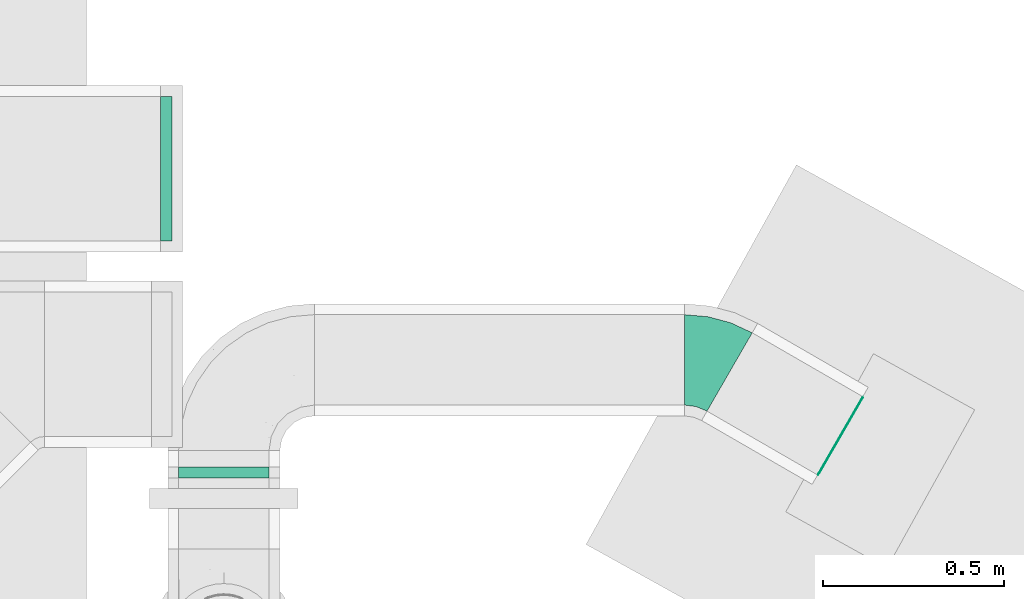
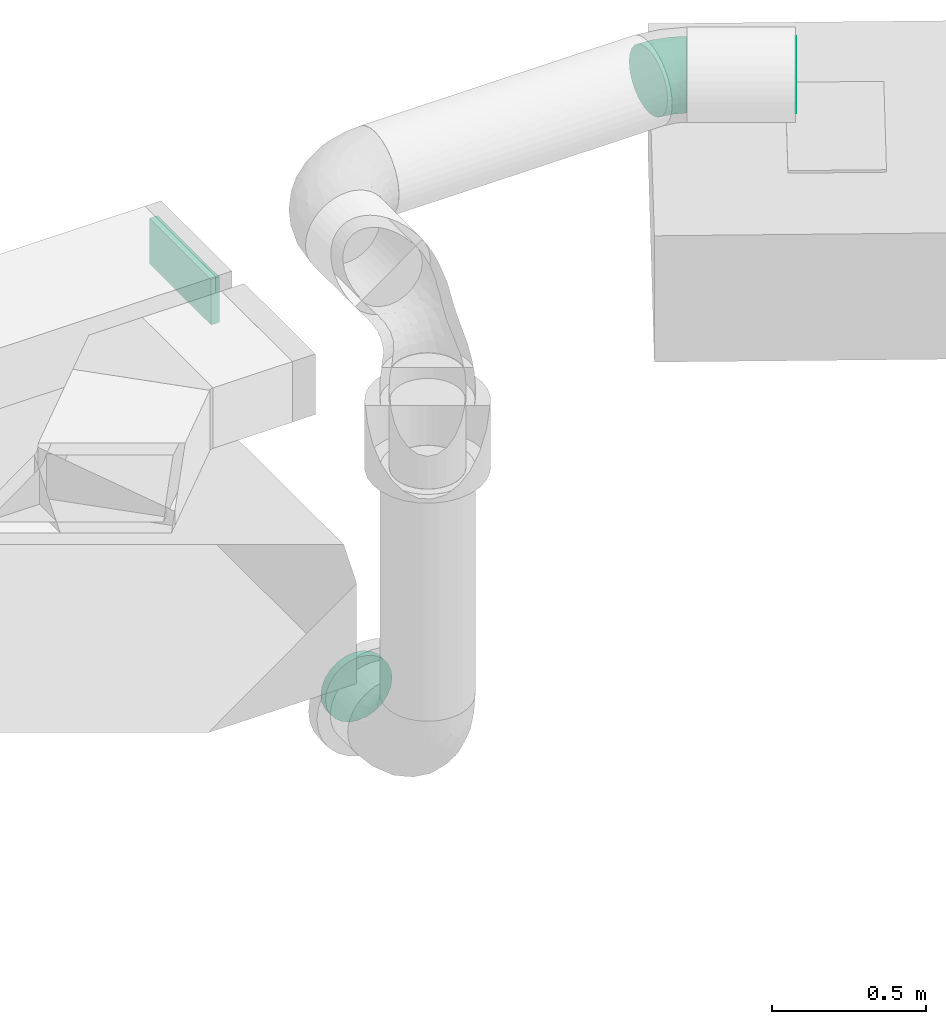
# One storey, part 8 of 9: 3 flow fittings, 1 flow terminal.
"""IFC2X3 building model written with IfcOpenShell, lengths in millimetres."""

import ifcopenshell
import ifcopenshell.guid

model = None  # the IFC model being written
_history = None  # IfcOwnerHistory: only IFC2X3 demands one
_inside = {}  # id of a spatial element -> (the spatial element, [elements in it])
_under = {}  # id of a project, library or spatial element -> (it, [spatial elements below it])
_declared = {}  # id of a project -> (the project, [libraries it declares])
_typed = {}  # id of a type object -> (the type object, [elements of that type])
_made_of = {}  # id of a material, layer set ... -> (it, [elements and type objects made of it])


def new_model(schema):
    """Start an empty IFC model of exactly this schema.

    Asked for "IFC4X3", IfcOpenShell would pick the latest addendum, in which some entities
    have other attributes; the version numbers below select the first issue.
    IFC2X3 requires an IfcOwnerHistory on every rooted entity: one is made here for all.
    """
    global model, _history
    if schema == "IFC4X3":
        model = ifcopenshell.file(schema_version=(4, 3, 0, 0))
    else:
        model = ifcopenshell.file(schema=schema)
    _inside.clear()
    _under.clear()
    _declared.clear()
    _typed.clear()
    _made_of.clear()
    _history = None
    if model.schema == "IFC2X3":
        org = make("IfcOrganization", Name="unknown")
        user = make(
            "IfcPersonAndOrganization",
            ThePerson=make("IfcPerson", FamilyName="unknown"),
            TheOrganization=org,
        )
        app = make(
            "IfcApplication",
            ApplicationDeveloper=org,
            Version="unknown",
            ApplicationFullName="unknown",
            ApplicationIdentifier="unknown",
        )
        _history = make(
            "IfcOwnerHistory",
            OwningUser=user,
            OwningApplication=app,
            ChangeAction="ADDED",
            CreationDate=0,
        )
    return model


def make(cls, **values):
    """One entity of the class cls with the attributes given. An attribute that is None is left unset."""
    return model.create_entity(
        cls, **{name: value for name, value in values.items() if value is not None}
    )


def entity(cls, *values):
    """Any entity or typed value of the class cls, its attributes in the order of the schema. None: left unset."""
    e = model.create_entity(cls)
    for i, value in enumerate(values):
        if value is not None:
            e[i] = value
    return e


def rooted(cls, **values):
    """An entity with a GlobalId (a new one), such as an element, a storey or a relation."""
    return make(cls, GlobalId=ifcopenshell.guid.new(), OwnerHistory=_history, **values)


def si_unit(unit_type, name, prefix=None):
    """IfcSIUnit, for example si_unit("LENGTHUNIT", "METRE", prefix="MILLI")."""
    return make("IfcSIUnit", UnitType=unit_type, Prefix=prefix, Name=name)


def converted_unit(unit_type, name, factor, base, dimensions=None, offset=None):
    """IfcConversionBasedUnit, such as the inch: factor (a typed value) times the base unit."""
    return make(
        "IfcConversionBasedUnit"
        if offset is None
        else "IfcConversionBasedUnitWithOffset",
        ConversionOffset=offset,
        Dimensions=None
        if dimensions is None
        else entity("IfcDimensionalExponents", *dimensions),
        UnitType=unit_type,
        Name=name,
        ConversionFactor=make(
            "IfcMeasureWithUnit", ValueComponent=factor, UnitComponent=base
        ),
    )


def derived_unit(unit_type, elements):
    """IfcDerivedUnit: a product of units, each with its exponent."""
    return make(
        "IfcDerivedUnit",
        Elements=[
            make("IfcDerivedUnitElement", Unit=unit, Exponent=power)
            for unit, power in elements
        ],
        UnitType=unit_type,
    )


def assignment(units):
    """IfcUnitAssignment: the units of a project."""
    return None if units is None else make("IfcUnitAssignment", Units=units)


def point(xyz):
    """IfcCartesianPoint."""
    return None if xyz is None else make("IfcCartesianPoint", Coordinates=xyz)


def direction(xyz):
    """IfcDirection."""
    return None if xyz is None else make("IfcDirection", DirectionRatios=xyz)


def frame(location, z_axis=None, x_axis=None):
    """IfcAxis2Placement3D, a coordinate frame: its origin and axes. An axis left out is left unset."""
    return make(
        "IfcAxis2Placement3D",
        Location=point(location),
        Axis=direction(z_axis),
        RefDirection=direction(x_axis),
    )


def origin_with_axes():
    """The frame at (0, 0, 0) with the z axis (0, 0, 1) and the x axis (1, 0, 0) written out."""
    return frame((0.0, 0.0, 0.0), z_axis=(0.0, 0.0, 1.0), x_axis=(1.0, 0.0, 0.0))


def place(relative_to, where):
    """IfcLocalPlacement: puts the frame where relative to a parent placement (None: the world)."""
    return make(
        "IfcLocalPlacement", PlacementRelTo=relative_to, RelativePlacement=where
    )


def context(
    kind, dimensions, precision=None, world=None, true_north=None, identifier=None
):
    """IfcGeometricRepresentationContext, for example the 3D "Model" context."""
    return make(
        "IfcGeometricRepresentationContext",
        ContextIdentifier=identifier,
        ContextType=kind,
        CoordinateSpaceDimension=dimensions,
        Precision=precision,
        WorldCoordinateSystem=world,
        TrueNorth=true_north,
    )


def subcontext(parent, identifier, kind, view, scale=None):
    """IfcGeometricRepresentationSubContext, for example "Body" below "Model"."""
    return make(
        "IfcGeometricRepresentationSubContext",
        ContextIdentifier=identifier,
        ContextType=kind,
        ParentContext=parent,
        TargetScale=scale,
        TargetView=view,
    )


def project(units=None, contexts=None):
    """IfcProject with its units and contexts."""
    return rooted(
        "IfcProject",
        Name="project",
        RepresentationContexts=contexts,
        UnitsInContext=assignment(units),
    )


def spatial(cls, under=None, at=None, **own):
    """A site, building, storey or space (cls), placed at a placement, below another one or the project."""
    s = rooted(cls, ObjectPlacement=at, **own)
    if under is not None:
        _under.setdefault(under.id(), (under, []))[1].append(s)
    return s


def faces_of(points, faces, orient=None, outer=None):
    """IfcFace entities. A face is a list of loops; a loop is a list of indices into points, from 0.

    orient and outer hold one flag for each loop. By default every Orientation is true, the
    first loop of a face is its IfcFaceOuterBound and the others are IfcFaceBound.
    """
    made = []
    for i, loops in enumerate(faces):
        bounds = []
        for j, loop in enumerate(loops):
            is_outer = j == 0 if outer is None else outer[i][j]
            bounds.append(
                make(
                    "IfcFaceOuterBound" if is_outer else "IfcFaceBound",
                    Bound=make("IfcPolyLoop", Polygon=[points[k] for k in loop]),
                    Orientation=True if orient is None else orient[i][j],
                )
            )
        made.append(make("IfcFace", Bounds=bounds))
    return made


def open_shell(faces, orient=None, outer=None):
    """The faces of one IfcOpenShell. surface_model builds it on its shared points."""
    return ("IfcOpenShell", faces, orient, outer)


def surface_model(cls, points, shells):
    """IfcFaceBasedSurfaceModel or IfcShellBasedSurfaceModel (cls): surfaces that need not close."""
    shared = [point(p) for p in points]
    made = [make(c, CfsFaces=faces_of(shared, fs, o, b)) for c, fs, o, b in shells]
    if cls == "IfcFaceBasedSurfaceModel":
        return make(cls, FbsmFaces=made)
    return make(cls, SbsmBoundary=made)


def shape(context_of_items, identifier, shape_type, items):
    """IfcShapeRepresentation: the items that make up one representation, for example the "Body"."""
    return make(
        "IfcShapeRepresentation",
        ContextOfItems=context_of_items,
        RepresentationIdentifier=identifier,
        RepresentationType=shape_type,
        Items=items,
    )


def source(mapping_origin, context_of_items, identifier, shape_type, items):
    """IfcRepresentationMap: a shape defined once, which mapped items show again and again."""
    return make(
        "IfcRepresentationMap",
        MappingOrigin=mapping_origin,
        MappedRepresentation=shape(context_of_items, identifier, shape_type, items),
    )


def transform(
    local_origin,
    x_axis=None,
    y_axis=None,
    z_axis=None,
    scale=None,
    scale2=None,
    scale3=None,
    uniform=True,
):
    """IfcCartesianTransformationOperator3D, or its non-uniform kind. x_axis, y_axis, z_axis: its Axis1, 2, 3."""
    if uniform:
        return make(
            "IfcCartesianTransformationOperator3D",
            Axis1=direction(x_axis),
            Axis2=direction(y_axis),
            LocalOrigin=point(local_origin),
            Scale=scale,
            Axis3=direction(z_axis),
        )
    return make(
        "IfcCartesianTransformationOperator3DnonUniform",
        Axis1=direction(x_axis),
        Axis2=direction(y_axis),
        LocalOrigin=point(local_origin),
        Scale=scale,
        Axis3=direction(z_axis),
        Scale2=scale2,
        Scale3=scale3,
    )


def mapped(mapping_source, mapping_target):
    """IfcMappedItem: shows the shape of a source again, moved by a transform."""
    return make(
        "IfcMappedItem", MappingSource=mapping_source, MappingTarget=mapping_target
    )


def made_of(thing, what):
    """Note that an element or type object is made of a material, layer set ...; save() writes the relation."""
    if what is not None:
        _made_of.setdefault(what.id(), (what, []))[1].append(thing)
    return thing


def type_object(cls, material=None, **own):
    """A type object (cls), such as IfcWallType, which elements share."""
    return made_of(rooted(cls, **own), material)


def element(
    cls,
    number,
    at=None,
    inside=None,
    cuts=None,
    type_object=None,
    material=None,
    context=None,
    identifier="Body",
    shape_type=None,
    held_by="IfcProductDefinitionShape",
    body=None,
    shapes=None,
    **own,
):
    """One element of the class cls, such as IfcWall. Its Tag is "e" and its number.

    at: its placement. inside: the storey or other place that contains it. cuts: it is an
    opening in that element (IfcRelVoidsElement). A single representation is given by context,
    identifier, shape_type and body (its items); several are given by shapes. held_by: the class
    of the entity that holds the representations. save() writes the other relations.
    """
    e = rooted(cls, Tag="e%d" % number, ObjectPlacement=at, **own)
    if body is not None:
        shapes = [shape(context, identifier, shape_type, body)]
    if shapes is not None:
        e.Representation = make(held_by, Representations=shapes)
    if inside is not None:
        _inside.setdefault(inside.id(), (inside, []))[1].append(e)
    if cuts is not None:
        rooted(
            "IfcRelVoidsElement", RelatingBuildingElement=cuts, RelatedOpeningElement=e
        )
    if type_object is not None:
        _typed.setdefault(type_object.id(), (type_object, []))[1].append(e)
    return made_of(e, material)


def aggregate(whole, parts):
    """IfcRelAggregates: a whole, such as a stair, and the parts it consists of."""
    return rooted("IfcRelAggregates", RelatingObject=whole, RelatedObjects=parts)


def save(model, path):
    """Write the relations noted so far, then the file.

    IfcRelAggregates (storeys below a building ...), IfcRelContainedInSpatialStructure (elements
    in a storey), IfcRelDefinesByType, IfcRelAssociatesMaterial and IfcRelDeclares: one each for
    every whole, place, type object, material and project.
    """
    for whole, parts in _under.values():
        aggregate(whole, parts)
    for where, things in _inside.values():
        rooted(
            "IfcRelContainedInSpatialStructure",
            RelatedElements=things,
            RelatingStructure=where,
        )
    for kind, things in _typed.values():
        rooted("IfcRelDefinesByType", RelatedObjects=things, RelatingType=kind)
    for what, things in _made_of.values():
        rooted("IfcRelAssociatesMaterial", RelatedObjects=things, RelatingMaterial=what)
    for by, libraries in _declared.values():
        rooted("IfcRelDeclares", RelatingContext=by, RelatedDefinitions=libraries)
    model.write(path)


model = new_model("IFC2X3")

# Units and contexts
model_context = context("Model", 3, precision=0.01, world=frame((0.0, 4.29681676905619e-09, 0.0)), true_north=direction((4.01073788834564e-13, 1.0)))
plan_context = context("Plan", 3, precision=0.01, world=frame((0.0, 4.29681676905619e-09, 0.0)), true_north=direction((4.01073788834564e-13, 1.0)))
body_context = subcontext(model_context, "Body", "Model", "MODEL_VIEW")
ifc_project = project(units=[converted_unit("PLANEANGLEUNIT", "DEGREE", entity("IfcPositiveLengthMeasure", 0.0174532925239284), si_unit("PLANEANGLEUNIT", "RADIAN"), dimensions=[0, 0, 0, 0, 0, 0, 0]), si_unit("AREAUNIT", "SQUARE_METRE"), si_unit("LENGTHUNIT", "METRE", prefix="MILLI"), si_unit("MASSUNIT", "GRAM", prefix="KILO"), si_unit("POWERUNIT", "WATT"), si_unit("PRESSUREUNIT", "PASCAL"), si_unit("FORCEUNIT", "NEWTON", prefix="KILO"), si_unit("ELECTRICVOLTAGEUNIT", "VOLT"), si_unit("ELECTRICCURRENTUNIT", "AMPERE"), si_unit("THERMODYNAMICTEMPERATUREUNIT", "DEGREE_CELSIUS"), si_unit("TIMEUNIT", "SECOND"), si_unit("VOLUMEUNIT", "CUBIC_METRE"), derived_unit("LINEARVELOCITYUNIT", [(si_unit("LENGTHUNIT", "METRE"), 1), (si_unit("TIMEUNIT", "SECOND"), -1)]), derived_unit("VOLUMETRICFLOWRATEUNIT", [(si_unit("VOLUMEUNIT", "CUBIC_METRE"), 1), (si_unit("TIMEUNIT", "SECOND"), -1)]), derived_unit("THERMALTRANSMITTANCEUNIT", [(si_unit("POWERUNIT", "WATT"), 1), (si_unit("THERMODYNAMICTEMPERATUREUNIT", "KELVIN"), -1), (si_unit("AREAUNIT", "SQUARE_METRE"), -1)]), derived_unit("SOUNDPRESSUREUNIT", [(si_unit("PRESSUREUNIT", "PASCAL"), 1)])], contexts=[model_context, plan_context])

# Site, building, storey
site_placement = place(None, frame((0.0, -4.29681676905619e-09, 0.0), z_axis=(0.0, 0.0, 1.0), x_axis=(1.0, 0.0, 0.0)))
site = spatial("IfcSite", under=ifc_project, at=site_placement, CompositionType="ELEMENT")
building_placement = place(site_placement, frame((0.0, 4.29681676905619e-09, 0.0), z_axis=(0.0, 0.0, 1.0), x_axis=(1.0, 0.0, 0.0)))
building = spatial("IfcBuilding", under=site, at=building_placement, Name="mc-building", CompositionType="ELEMENT")
storey_placement = place(building_placement, frame((0.0, 0.0, 210200.0), z_axis=(0.0, 0.0, 1.0), x_axis=(1.0, 0.0, 0.0)))
storey = spatial("IfcBuildingStorey", under=building, at=storey_placement, Name="Nivå F -0,7m", CompositionType="ELEMENT", Elevation=210200.0)

# Flow fittings
duct_fitting_type_1 = type_object("IfcDuctFittingType", Name="magicirc_elbow_full_radius_001", PredefinedType="BEND")
shared_shape_1 = source(origin_with_axes(), body_context, "Body", "SurfaceModel", [
    surface_model("IfcShellBasedSurfaceModel", [(-66.9873, 32.35238, -120.74073), (-66.9873, 0.0, -125.0), (-66.9873, 88.38835, -88.38835), (-66.9873, 62.5, -108.25318), (-66.9873, 120.74073, -32.35238), (-66.9873, 108.25318, -62.5), (-66.9873, -32.35238, -120.74073), (-66.9873, -62.5, -108.25318), (-66.9873, -88.38835, -88.38835), (-66.9873, -108.25318, -62.5), (-66.9873, -120.74073, -32.35238), (-66.9873, -125.0, 0.0), (-66.9873, 125.0, 0.0), (-66.9873, -62.5, 108.25318), (-66.9873, 120.74073, 32.35238), (-66.9873, 108.25318, 62.5), (-66.9873, 32.35238, 120.74073), (-66.9873, 62.5, 108.25318), (-66.9873, 88.38835, 88.38835), (-66.9873, -108.25318, 62.5), (-66.9873, -88.38835, 88.38835), (-66.9873, -120.74073, 32.35238), (-66.9873, -32.35238, 120.74073), (-66.9873, 0.0, 125.0), (102.20688, -43.0529, -88.38835), (58.0127, 33.49365, -125.0), (41.83651, 61.51163, -120.74073), (26.7627, 87.62023, -108.25318), (13.81853, 110.0402, -88.38835), (3.88611, 127.24365, -62.5), (-2.35766, 138.05819, -32.35238), (74.18889, 5.47567, -120.74073), (89.2627, -20.63294, -108.25318), (112.13929, -60.25635, -62.5), (120.5127, -74.75953, 0.0), (118.38306, -71.07089, -32.35238), (-4.4873, 141.74683, 0.0), (41.83651, 61.51163, 120.74073), (-2.35766, 138.05819, 32.35238), (3.88611, 127.24365, 62.5), (13.81853, 110.0402, 88.38835), (26.7627, 87.62023, 108.25318), (89.2627, -20.63294, 108.25318), (112.13929, -60.25635, 62.5), (102.20688, -43.0529, 88.38835), (118.38306, -71.07089, 32.35238), (58.0127, 33.49365, 125.0), (74.18889, 5.47567, 120.74073), (-10.52673, -112.57243, 44.15342), (-1.86923, -119.30291, 0.0), (-20.91676, -120.23002, 21.79378), (-35.89571, -122.27984, 0.0), (24.34933, -90.87293, 70.97238), (-24.69912, -98.35294, 73.77062), (70.56654, -72.82659, 73.77062), (-31.85796, -48.03233, 114.52264), (-13.67198, -74.62338, 96.89352), (11.40538, -42.56547, 113.26105), (25.12039, -111.15876, 23.77057), (27.61966, -103.07798, 47.7187), (-19.81421, -15.54023, 123.43822), (-5.29627, 19.76594, 124.45647), (-40.67459, 15.80942, 124.17521), (51.60597, -25.66825, 114.52264), (-26.6654, 48.83353, 116.68363), (-21.17057, 79.00964, 101.4852), (49.15197, -57.78976, 96.89352), (-24.78516, 103.10992, 78.63486), (-31.85959, 118.90162, 50.65349), (-33.4328, 126.77673, 25.88802), (65.40263, -92.22723, 44.15342), (78.22946, -93.66387, 21.79379), (92.22651, -87.94959, 0.0), (28.3766, -1.98516, 123.48117), (27.32052, 34.02865, 124.17521), (-34.63492, 129.25927, 0.0), (8.66503, 60.17207, 116.36517), (29.70051, -110.84382, 0.0), (61.27026, -102.38473, 0.0), (65.40263, -92.22723, -44.15342), (24.92973, -3.55113, -123.43822), (-40.67459, 15.80941, -124.17521), (-23.58227, -15.9075, -123.48117), (-30.09038, 101.68839, -78.63485), (-21.17058, 79.00964, -101.4852), (-1.32386, 55.62377, -116.68363), (49.15197, -57.78975, -96.89352), (-31.85959, 118.90162, -50.65348), (-34.43471, 126.50827, -25.88802), (25.12039, -111.15876, -23.77056), (-20.91676, -120.23002, -21.79378), (-37.59018, 47.77802, -116.36517), (-10.52673, -112.57244, -44.15342), (27.32052, 34.02865, -124.17521), (-24.69912, -98.35294, -73.77062), (-13.67198, -74.62338, -96.89352), (24.34933, -90.87294, -70.97237), (-31.85795, -48.03234, -114.52264), (11.40538, -42.56548, -113.26105), (-5.29627, 19.76594, -124.45647), (70.56654, -72.82659, -73.77062), (78.22945, -93.66387, -21.79378), (51.60597, -25.66825, -114.52264), (27.61966, -103.07798, -47.7187)], [open_shell([[[0, 1, 2]], [[3, 0, 2]], [[4, 5, 2]], [[6, 2, 1]], [[4, 2, 6]], [[7, 8, 6]], [[8, 4, 6]], [[9, 10, 8]], [[11, 8, 10]], [[8, 11, 4]], [[11, 12, 4]], [[12, 13, 14]], [[15, 14, 16]], [[16, 17, 18]], [[15, 16, 18]], [[16, 14, 13]], [[19, 20, 21]], [[21, 20, 11]], [[22, 23, 13]], [[20, 13, 11]], [[13, 23, 16]], [[13, 12, 11]], [[24, 25, 26]], [[27, 24, 26]], [[28, 29, 30]], [[24, 27, 28]], [[24, 28, 30]], [[31, 24, 32]], [[31, 25, 24]], [[33, 34, 35]], [[34, 33, 24]], [[30, 34, 24]], [[30, 36, 34]], [[37, 36, 38]], [[37, 38, 39]], [[40, 41, 37]], [[40, 37, 39]], [[37, 42, 34]], [[43, 42, 44]], [[45, 34, 43]], [[42, 46, 47]], [[43, 34, 42]], [[46, 42, 37]], [[36, 37, 34]], [[21, 48, 19]], [[49, 50, 51]], [[52, 53, 48]], [[43, 44, 54]], [[55, 56, 57]], [[53, 20, 19]], [[58, 59, 48]], [[22, 13, 55]], [[60, 61, 62]], [[42, 47, 63]], [[21, 51, 50]], [[48, 50, 58]], [[62, 16, 23]], [[17, 64, 65]], [[41, 40, 65]], [[17, 16, 64]], [[66, 56, 52]], [[65, 18, 17]], [[54, 66, 52]], [[67, 18, 65]], [[14, 15, 68]], [[56, 66, 57]], [[69, 12, 14]], [[53, 56, 20]], [[58, 70, 59]], [[45, 71, 72]], [[73, 61, 60]], [[44, 42, 66]], [[67, 68, 15]], [[73, 47, 46]], [[46, 37, 74]], [[71, 45, 70]], [[48, 53, 19]], [[66, 42, 63]], [[56, 53, 52]], [[43, 54, 70]], [[13, 20, 56]], [[39, 38, 68]], [[68, 67, 39]], [[14, 68, 69]], [[23, 22, 60]], [[75, 69, 36]], [[57, 63, 73]], [[38, 69, 68]], [[73, 46, 74]], [[40, 39, 67]], [[62, 64, 16]], [[67, 65, 40]], [[61, 74, 76]], [[37, 41, 76]], [[76, 65, 64]], [[18, 67, 15]], [[57, 73, 60]], [[70, 45, 43]], [[66, 54, 44]], [[55, 60, 22]], [[70, 54, 52]], [[56, 55, 13]], [[60, 55, 57]], [[73, 63, 47]], [[66, 63, 57]], [[65, 76, 41]], [[61, 76, 64]], [[36, 69, 38]], [[69, 75, 12]], [[21, 11, 51]], [[58, 50, 49]], [[21, 50, 48]], [[58, 49, 77]], [[58, 78, 71]], [[70, 52, 59]], [[52, 48, 59]], [[72, 71, 78]], [[72, 34, 45]], [[58, 71, 70]], [[60, 62, 23]], [[64, 62, 61]], [[76, 74, 37]], [[73, 74, 61]], [[78, 58, 77]], [[33, 35, 79]], [[25, 31, 80]], [[81, 1, 0]], [[1, 82, 6]], [[2, 83, 84]], [[27, 26, 85]], [[2, 84, 3]], [[32, 24, 86]], [[87, 4, 88]], [[89, 49, 90]], [[10, 90, 51]], [[0, 3, 91]], [[90, 10, 92]], [[30, 29, 87]], [[93, 85, 26]], [[94, 92, 9]], [[8, 7, 95]], [[95, 86, 96]], [[10, 9, 92]], [[8, 94, 9]], [[97, 7, 6]], [[94, 95, 96]], [[98, 97, 82]], [[99, 81, 91]], [[12, 75, 88]], [[79, 100, 33]], [[36, 30, 88]], [[98, 82, 80]], [[5, 83, 2]], [[87, 5, 4]], [[84, 28, 27]], [[99, 80, 82]], [[27, 85, 84]], [[97, 95, 7]], [[85, 91, 84]], [[28, 84, 83]], [[35, 72, 101]], [[93, 26, 25]], [[102, 31, 32]], [[89, 103, 79]], [[33, 100, 24]], [[98, 102, 86]], [[100, 86, 24]], [[99, 93, 80]], [[96, 100, 79]], [[102, 80, 31]], [[101, 72, 78]], [[82, 1, 81]], [[28, 83, 29]], [[89, 79, 101]], [[86, 95, 98]], [[87, 83, 5]], [[95, 94, 8]], [[30, 87, 88]], [[92, 94, 96]], [[83, 87, 29]], [[86, 100, 96]], [[82, 97, 6]], [[95, 97, 98]], [[86, 102, 32]], [[80, 102, 98]], [[84, 91, 3]], [[99, 91, 85]], [[12, 88, 4]], [[88, 75, 36]], [[51, 90, 49]], [[51, 11, 10]], [[89, 90, 92]], [[89, 92, 103]], [[89, 78, 77]], [[92, 96, 103]], [[96, 79, 103]], [[35, 34, 72]], [[89, 101, 78]], [[35, 101, 79]], [[91, 81, 0]], [[82, 81, 99]], [[80, 93, 25]], [[85, 93, 99]], [[77, 49, 89]]])]),
])
flow_fitting_1_placement = place(storey_placement, frame((525521.31986, 456435.47356, 3920.0), z_axis=(0.0, 0.0, 1.0), x_axis=(-0.866025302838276, 0.500000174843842, 0.0)))
element("IfcFlowFitting", 1, at=flow_fitting_1_placement, inside=storey, type_object=duct_fitting_type_1, Name="magicirc_elbow_full_radius_001", context=body_context, shape_type="MappedRepresentation", body=[
    mapped(shared_shape_1, transform((0.0, 0.0, 0.0), scale=1.0)),
])
duct_fitting_type_2 = type_object("IfcDuctFittingType", Name="magicirc_tapoutlet_001", PredefinedType="CONNECTOR")
shared_shape_2 = source(origin_with_axes(), body_context, "Body", "SurfaceModel", [
    surface_model("IfcShellBasedSurfaceModel", [(-6.096, 0.0, -125.0), (-6.096, -32.35238, -120.74073), (-6.096, 32.35238, -120.74073), (-6.096, 120.74073, 32.35238), (-6.096, 62.5, -108.25318), (-6.096, -125.0, 0.0), (-6.096, -120.74073, 32.35238), (-6.096, -88.38835, -88.38835), (-6.096, -62.5, -108.25318), (-6.096, -120.74073, -32.35238), (-6.096, -108.25318, -62.5), (-6.096, 120.74073, -32.35238), (-6.096, 108.25318, -62.5), (-6.096, 108.25318, 62.5), (-6.096, 62.5, 108.25318), (-6.096, 32.35238, 120.74073), (-6.096, -108.25318, 62.5), (-6.096, -88.38835, 88.38835), (-6.096, -32.35238, 120.74073), (-6.096, 0.0, 125.0), (-6.096, -62.5, 108.25318), (-6.096, 125.0, 0.0), (0.0, 0.0, 125.0), (0.0, 32.35238, 120.74073), (0.0, 62.5, 108.25318), (0.0, 88.38835, 88.38835), (-6.096, 88.38835, 88.38835), (0.0, 108.25318, 62.5), (0.0, 120.74073, 32.35238), (0.0, 125.0, 0.0), (0.0, 120.74073, -32.35238), (0.0, 108.25318, -62.5), (0.0, 88.38835, -88.38835), (-6.096, 88.38835, -88.38835), (0.0, 32.35238, -120.74073), (0.0, 0.0, -125.0), (0.0, 62.5, -108.25318), (0.0, -32.35238, -120.74073), (0.0, -62.5, -108.25318), (0.0, -88.38835, -88.38835), (0.0, -108.25318, -62.5), (0.0, -120.74073, -32.35238), (0.0, -125.0, 0.0), (0.0, -120.74073, 32.35238), (0.0, -108.25318, 62.5), (0.0, -88.38835, 88.38835), (0.0, -62.5, 108.25318), (0.0, -32.35238, 120.74073), (25.0, 120.74073, 32.35238), (25.0, 0.0, -125.0), (25.0, 32.35238, -120.74073), (25.0, 62.5, -108.25318), (25.0, 125.0, 0.0), (25.0, 88.38835, -88.38835), (25.0, 108.25318, -62.5), (25.0, -88.38835, -88.38835), (25.0, -120.74073, 32.35238), (25.0, -62.5, -108.25318), (25.0, -32.35238, -120.74073), (25.0, -108.25318, -62.5), (25.0, -120.74073, -32.35238), (25.0, -125.0, 0.0), (25.0, 120.74073, -32.35238), (25.0, 108.25318, 62.5), (25.0, 88.38835, 88.38835), (25.0, 32.35238, 120.74073), (25.0, 62.5, 108.25318), (25.0, -62.5, 108.25318), (25.0, -108.25318, 62.5), (25.0, -88.38835, 88.38835), (25.0, -32.35238, 120.74073), (25.0, 0.0, 125.0)], [open_shell([[[0, 1, 2]], [[2, 3, 4]], [[2, 5, 6]], [[7, 5, 8]], [[2, 1, 8]], [[9, 5, 10]], [[7, 10, 5]], [[8, 5, 2]], [[11, 12, 3]], [[13, 3, 2]], [[14, 2, 15]], [[16, 17, 2]], [[18, 19, 20]], [[17, 20, 19]], [[21, 11, 3]], [[19, 22, 23]], [[15, 23, 24]], [[19, 23, 15]], [[14, 25, 26]], [[14, 15, 24]], [[25, 14, 24]], [[13, 27, 28]], [[3, 28, 29]], [[26, 27, 13]], [[3, 13, 28]], [[21, 3, 29]], [[27, 26, 25]], [[21, 29, 30]], [[11, 30, 31]], [[21, 30, 11]], [[12, 32, 33]], [[12, 11, 31]], [[32, 12, 31]], [[34, 35, 0]], [[36, 34, 2]], [[33, 36, 4]], [[0, 2, 34]], [[36, 2, 4]], [[36, 33, 32]], [[0, 35, 37]], [[1, 37, 38]], [[0, 37, 1]], [[8, 39, 7]], [[8, 1, 38]], [[39, 8, 38]], [[10, 40, 41]], [[9, 41, 42]], [[7, 40, 10]], [[9, 10, 41]], [[5, 9, 42]], [[40, 7, 39]], [[5, 42, 43]], [[6, 43, 44]], [[5, 43, 6]], [[16, 45, 17]], [[16, 6, 44]], [[45, 16, 44]], [[20, 46, 47]], [[18, 47, 22]], [[17, 46, 20]], [[18, 20, 47]], [[19, 18, 22]], [[46, 17, 45]], [[12, 33, 3]], [[48, 49, 50]], [[51, 52, 50]], [[52, 53, 54]], [[51, 53, 52]], [[55, 49, 56]], [[49, 55, 57]], [[57, 58, 49]], [[59, 56, 60]], [[55, 56, 59]], [[56, 61, 60]], [[52, 54, 62]], [[48, 63, 49]], [[49, 63, 64]], [[65, 49, 66]], [[49, 64, 66]], [[67, 49, 65]], [[68, 56, 49]], [[69, 68, 49]], [[67, 69, 49]], [[70, 67, 65]], [[65, 71, 70]], [[50, 52, 48]], [[22, 71, 65]], [[23, 65, 66]], [[22, 65, 23]], [[24, 64, 25]], [[24, 23, 66]], [[64, 24, 66]], [[27, 63, 48]], [[28, 48, 52]], [[25, 63, 27]], [[28, 27, 48]], [[29, 28, 52]], [[63, 25, 64]], [[29, 52, 62]], [[30, 62, 54]], [[29, 62, 30]], [[31, 53, 32]], [[31, 30, 54]], [[53, 31, 54]], [[50, 49, 35]], [[51, 50, 34]], [[32, 51, 36]], [[35, 34, 50]], [[51, 34, 36]], [[51, 32, 53]], [[35, 49, 58]], [[37, 58, 57]], [[35, 58, 37]], [[38, 55, 39]], [[38, 37, 57]], [[55, 38, 57]], [[40, 59, 60]], [[41, 60, 61]], [[39, 59, 40]], [[41, 40, 60]], [[42, 41, 61]], [[59, 39, 55]], [[42, 61, 56]], [[43, 56, 68]], [[42, 56, 43]], [[44, 69, 45]], [[44, 43, 68]], [[69, 44, 68]], [[46, 67, 70]], [[47, 70, 71]], [[45, 67, 46]], [[47, 46, 70]], [[22, 47, 71]], [[67, 45, 69]], [[52, 49, 50]], [[59, 55, 56]], [[61, 60, 56]], [[63, 64, 49]], [[64, 66, 65]], [[65, 49, 64]], [[69, 49, 67]], [[65, 70, 67]], [[52, 48, 49]], [[3, 33, 4]], [[13, 2, 26]], [[14, 26, 2]], [[2, 19, 15]], [[2, 6, 16]], [[19, 2, 17]]])]),
])
flow_fitting_2_placement = place(storey_placement, frame((524180.93348, 456133.17026, 2156.11027999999), z_axis=(-1.0, 0.0, 0.0), x_axis=(0.0, -1.0, 0.0)))
element("IfcFlowFitting", 2, at=flow_fitting_2_placement, inside=storey, type_object=duct_fitting_type_2, Name="magicirc_tapoutlet_001", context=body_context, shape_type="MappedRepresentation", body=[
    mapped(shared_shape_2, transform((0.0, 0.0, 0.0), scale=1.0)),
])
duct_fitting_type_3 = type_object("IfcDuctFittingType", Name="magirect_outlet1_001", PredefinedType="CONNECTOR")
shared_shape_3 = source(origin_with_axes(), body_context, "Body", "SurfaceModel", [
    surface_model("IfcShellBasedSurfaceModel", [(-6.096, 200.0, 90.0), (-6.096, 200.0, -90.0), (-6.096, -200.0, -90.0), (-6.096, -200.0, 90.0), (25.0, 200.0, -90.0), (25.0, 200.0, 90.0), (25.0, -200.0, -90.0), (25.0, -200.0, 90.0)], [open_shell([[[0, 1, 2]], [[2, 3, 0]], [[1, 0, 4]], [[5, 4, 0]], [[2, 1, 6]], [[4, 6, 1]], [[3, 2, 6]], [[6, 7, 3]], [[0, 3, 7]], [[7, 5, 0]], [[4, 5, 6]], [[7, 6, 5]], [[4, 5, 7]], [[7, 6, 4]]])]),
])
flow_fitting_3_placement = place(storey_placement, frame((524030.93348, 456964.0, 3350.0), z_axis=(0.0, 0.0, -1.0), x_axis=(-1.0, 0.0, 0.0)))
element("IfcFlowFitting", 3, at=flow_fitting_3_placement, inside=storey, type_object=duct_fitting_type_3, Name="magirect_outlet1_001", context=body_context, shape_type="MappedRepresentation", body=[
    mapped(shared_shape_3, transform((0.0, 0.0, 0.0), scale=1.0)),
])

# Flow terminal
shared_shape_4 = source(origin_with_axes(), body_context, "Body", "SurfaceModel", [
    surface_model("IfcShellBasedSurfaceModel", [(0.0, -32.35238, 120.74073), (0.0, -88.38835, 88.38835), (0.0, -62.5, 108.25318), (0.0, -120.74073, 32.35238), (0.0, -108.25318, 62.5), (0.0, -120.74073, -32.35238), (0.0, -88.38835, -88.38835), (0.0, -108.25318, -62.5), (0.0, -62.5, -108.25318), (0.0, 0.0, -125.0), (0.0, -32.35238, -120.74073), (0.0, -125.0, 0.0), (2.0, 0.0, -125.0), (2.0, 32.35238, -120.74073), (2.0, 62.5, -108.25318), (2.0, 88.38835, -88.38835), (2.0, 120.74073, -32.35238), (2.0, 108.25318, -62.5), (2.0, -88.38835, 88.38835), (2.0, -120.74073, -32.35238), (2.0, -62.5, -108.25318), (2.0, -32.35238, -120.74073), (2.0, -88.38835, -88.38835), (2.0, -108.25318, -62.5), (2.0, 125.0, 0.0), (2.0, 0.0, 125.0), (2.0, 120.74073, 32.35238), (2.0, 108.25318, 62.5), (2.0, 88.38835, 88.38835), (2.0, 62.5, 108.25318), (2.0, 32.35238, 120.74073), (2.0, -120.74073, 32.35238), (2.0, -108.25318, 62.5), (2.0, -125.0, 0.0), (2.0, -32.35238, 120.74073), (2.0, -62.5, 108.25318), (0.0, 0.0, 125.0), (0.0, 32.35238, 120.74073), (0.0, 62.5, 108.25318), (0.0, 88.38835, 88.38835), (0.0, 108.25318, 62.5), (0.0, 120.74073, 32.35238), (0.0, 120.74073, -32.35238), (0.0, 88.38835, -88.38835), (0.0, 108.25318, -62.5), (0.0, 62.5, -108.25318), (0.0, 32.35238, -120.74073), (0.0, 125.0, 0.0)], [open_shell([[[0, 1, 2]], [[1, 3, 4]], [[5, 6, 7]], [[8, 9, 10]], [[3, 5, 11]], [[12, 13, 14]], [[15, 12, 14]], [[12, 15, 16]], [[16, 15, 17]], [[18, 19, 16]], [[12, 20, 21]], [[20, 12, 19]], [[22, 19, 23]], [[19, 22, 20]], [[12, 16, 19]], [[16, 24, 25]], [[26, 27, 28]], [[26, 28, 29]], [[30, 25, 26]], [[30, 26, 29]], [[25, 18, 16]], [[31, 18, 32]], [[33, 19, 31]], [[18, 34, 35]], [[31, 19, 18]], [[34, 18, 25]], [[26, 25, 24]], [[5, 36, 37]], [[38, 5, 37]], [[39, 40, 41]], [[5, 38, 39]], [[3, 36, 5]], [[0, 36, 1]], [[36, 3, 1]], [[41, 42, 39]], [[5, 39, 42]], [[43, 42, 44]], [[5, 43, 45]], [[5, 42, 43]], [[46, 5, 45]], [[6, 5, 8]], [[9, 8, 5]], [[5, 46, 9]], [[42, 41, 47]], [[5, 19, 11]], [[7, 23, 5]], [[20, 6, 8]], [[7, 6, 22]], [[21, 8, 10]], [[5, 23, 19]], [[19, 33, 11]], [[21, 20, 8]], [[22, 6, 20]], [[22, 23, 7]], [[12, 21, 10]], [[10, 9, 12]], [[46, 13, 9]], [[45, 14, 46]], [[17, 43, 44]], [[45, 43, 15]], [[16, 44, 42]], [[45, 15, 14]], [[14, 13, 46]], [[24, 16, 42]], [[17, 44, 16]], [[17, 15, 43]], [[47, 24, 42]], [[9, 13, 12]], [[41, 26, 47]], [[40, 27, 41]], [[29, 39, 38]], [[40, 39, 28]], [[30, 38, 37]], [[41, 27, 26]], [[26, 24, 47]], [[30, 29, 38]], [[28, 39, 29]], [[28, 27, 40]], [[25, 30, 37]], [[37, 36, 25]], [[34, 36, 0]], [[2, 35, 0]], [[32, 4, 3]], [[31, 3, 11]], [[2, 18, 35]], [[35, 34, 0]], [[1, 32, 18]], [[1, 4, 32]], [[32, 3, 31]], [[11, 33, 31]], [[1, 18, 2]], [[36, 34, 25]]])]),
])
flow_terminal_placement = place(storey_placement, frame((525885.05053, 456225.47356, 3920.0), z_axis=(0.0, 0.0, 1.0), x_axis=(0.866025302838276, -0.500000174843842, 0.0)))
element("IfcFlowTerminal", 4, at=flow_terminal_placement, inside=storey, Name="MC_ConnectionNode_Return_Air_Round", context=body_context, shape_type="MappedRepresentation", body=[
    mapped(shared_shape_4, transform((0.0, 0.0, 0.0), scale=1.0)),
])

save(model, "model.ifc")
